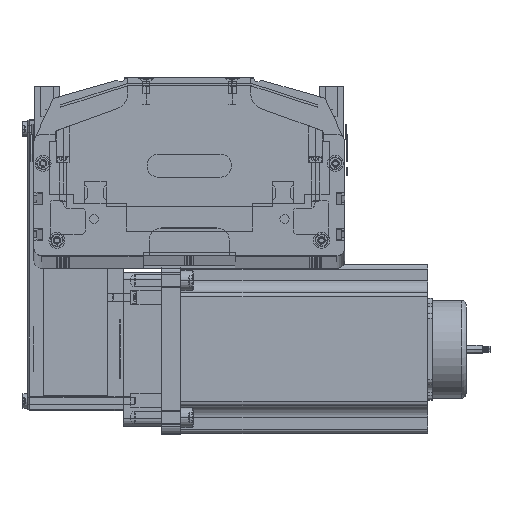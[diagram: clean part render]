
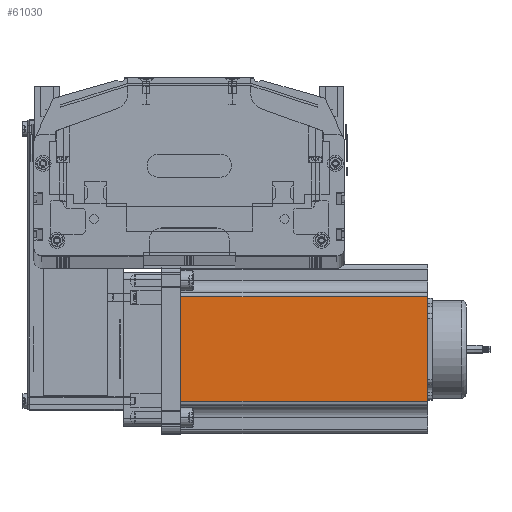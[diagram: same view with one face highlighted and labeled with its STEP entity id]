
A CAD part, top view. The second image highlights one B-rep face of the part: STEP entity #61030.
In plain terms, the highlighted planar face has unit normal (0, 0, 1) as drawn and (0, -1, 0) by its records, which use the part's own axes.
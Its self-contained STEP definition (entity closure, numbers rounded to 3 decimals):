
#4287 = VECTOR ( 'NONE', #4349, 1000. ) ;
#4299 = CARTESIAN_POINT ( 'NONE',  ( 0., 0., 160.5 ) ) ;
#4300 = LINE ( 'NONE', #4299, #4287 ) ;
#4314 = PLANE ( 'NONE',  #4380 ) ;
#4319 = CARTESIAN_POINT ( 'NONE',  ( 21.048, 0., 160.5 ) ) ;
#4320 = FACE_OUTER_BOUND ( 'NONE', #61358, .T. ) ;
#4321 = LINE ( 'NONE', #4319, #4383 ) ;
#4334 = CARTESIAN_POINT ( 'NONE',  ( 0., 0., 160.5 ) ) ;
#4349 = DIRECTION ( 'NONE',  ( 1., 0., 0. ) ) ;
#4373 = DIRECTION ( 'NONE',  ( 0., 0., 1. ) ) ;
#4374 = DIRECTION ( 'NONE',  ( 0., 1., 0. ) ) ;
#4379 = CARTESIAN_POINT ( 'NONE',  ( 21.048, 0., 160.5 ) ) ;
#4380 = AXIS2_PLACEMENT_3D ( 'NONE', #4334, #4374, #4373 ) ;
#4381 = CARTESIAN_POINT ( 'NONE',  ( 88.952, 0., 160.5 ) ) ;
#4382 = DIRECTION ( 'NONE',  ( 0., 0., -1. ) ) ;
#4383 = VECTOR ( 'NONE', #4382, 1000. ) ;
#4681 = CARTESIAN_POINT ( 'NONE',  ( 21.048, 0., 0. ) ) ;
#4684 = CARTESIAN_POINT ( 'NONE',  ( 88.952, 0., 0. ) ) ;
#4701 = DIRECTION ( 'NONE',  ( 1., 0., 0. ) ) ;
#4702 = VECTOR ( 'NONE', #4701, 1000. ) ;
#4703 = CARTESIAN_POINT ( 'NONE',  ( 0., 0., 0. ) ) ;
#4704 = LINE ( 'NONE', #4703, #4702 ) ;
#4705 = DIRECTION ( 'NONE',  ( 0., 0., 1. ) ) ;
#4706 = VECTOR ( 'NONE', #4705, 1000. ) ;
#4707 = CARTESIAN_POINT ( 'NONE',  ( 88.952, 0., 160.5 ) ) ;
#4709 = LINE ( 'NONE', #4707, #4706 ) ;
#60989 = EDGE_CURVE ( 'NONE', #61035, #61024, #4300, .T. ) ;
#61015 = ORIENTED_EDGE ( 'NONE', *, *, #61020, .T. ) ;
#61020 = EDGE_CURVE ( 'NONE', #61035, #61385, #4321, .T. ) ;
#61024 = VERTEX_POINT ( 'NONE', #4381 ) ;
#61030 = ADVANCED_FACE ( 'NONE', ( #4320 ), #4314, .F. ) ;
#61035 = VERTEX_POINT ( 'NONE', #4379 ) ;
#61358 = EDGE_LOOP ( 'NONE', ( #61428, #61524, #61420, #61015 ) ) ;
#61371 = VERTEX_POINT ( 'NONE', #4684 ) ;
#61385 = VERTEX_POINT ( 'NONE', #4681 ) ;
#61420 = ORIENTED_EDGE ( 'NONE', *, *, #60989, .F. ) ;
#61428 = ORIENTED_EDGE ( 'NONE', *, *, #61462, .T. ) ;
#61457 = EDGE_CURVE ( 'NONE', #61371, #61024, #4709, .T. ) ;
#61462 = EDGE_CURVE ( 'NONE', #61385, #61371, #4704, .T. ) ;
#61524 = ORIENTED_EDGE ( 'NONE', *, *, #61457, .T. ) ;
